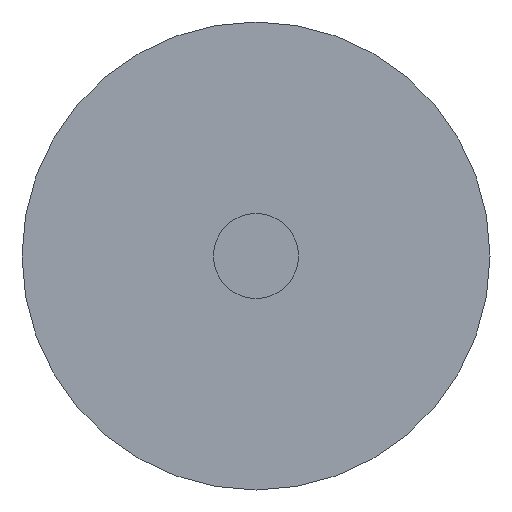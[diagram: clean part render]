
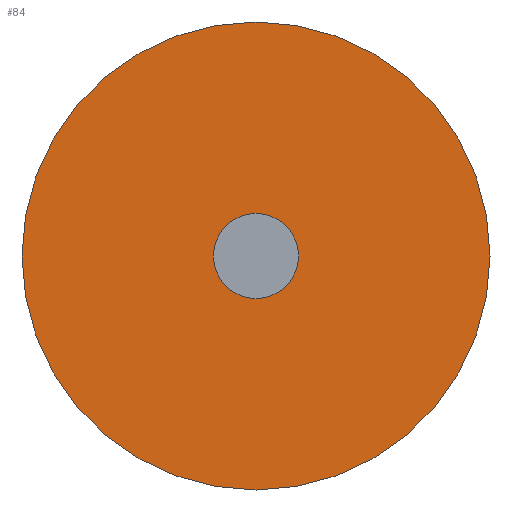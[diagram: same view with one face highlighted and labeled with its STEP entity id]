
A CAD part, front view. The second image highlights one B-rep face of the part: STEP entity #84.
In plain terms, the highlighted planar face has unit normal (0, -1, 0).
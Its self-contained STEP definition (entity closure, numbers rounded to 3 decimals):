
#84 = ADVANCED_FACE( '', ( #198, #199 ), #200, .F. );
#198 = FACE_BOUND( '', #412, .T. );
#199 = FACE_OUTER_BOUND( '', #413, .T. );
#200 = PLANE( '', #414 );
#412 = EDGE_LOOP( '', ( #749 ) );
#413 = EDGE_LOOP( '', ( #750 ) );
#414 = AXIS2_PLACEMENT_3D( '', #751, #752, #753 );
#749 = ORIENTED_EDGE( '', *, *, #1567, .F. );
#750 = ORIENTED_EDGE( '', *, *, #1568, .T. );
#751 = CARTESIAN_POINT( '', ( 13.75, 0., 0. ) );
#752 = DIRECTION( '', ( 0., 1., 0. ) );
#753 = DIRECTION( '', ( 0., 0., 1. ) );
#1567 = EDGE_CURVE( '', #1941, #1941, #1942, .T. );
#1568 = EDGE_CURVE( '', #1943, #1943, #1944, .T. );
#1941 = VERTEX_POINT( '', #2854 );
#1942 = CIRCLE( '', #2855, 2.5 );
#1943 = VERTEX_POINT( '', #2856 );
#1944 = CIRCLE( '', #2857, 13.75 );
#2854 = CARTESIAN_POINT( '', ( 0., 0., -2.5 ) );
#2855 = AXIS2_PLACEMENT_3D( '', #3346, #3347, #3348 );
#2856 = CARTESIAN_POINT( '', ( 0., 0., -13.75 ) );
#2857 = AXIS2_PLACEMENT_3D( '', #3349, #3350, #3351 );
#3346 = CARTESIAN_POINT( '', ( 0., 0., 0. ) );
#3347 = DIRECTION( '', ( 0., -1., 0. ) );
#3348 = DIRECTION( '', ( 0., 0., -1. ) );
#3349 = CARTESIAN_POINT( '', ( 0., 0., 0. ) );
#3350 = DIRECTION( '', ( 0., -1., 0. ) );
#3351 = DIRECTION( '', ( 0., 0., -1. ) );
